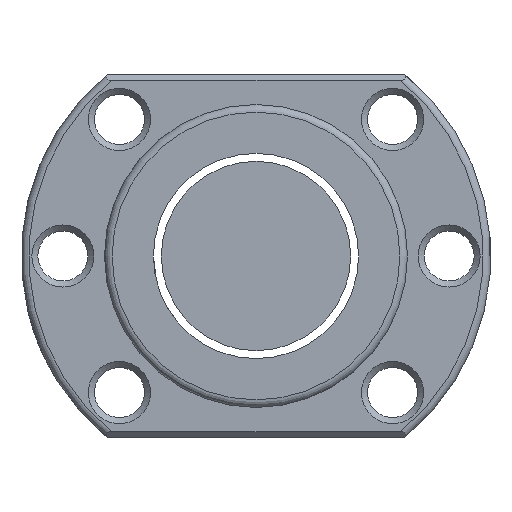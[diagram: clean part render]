
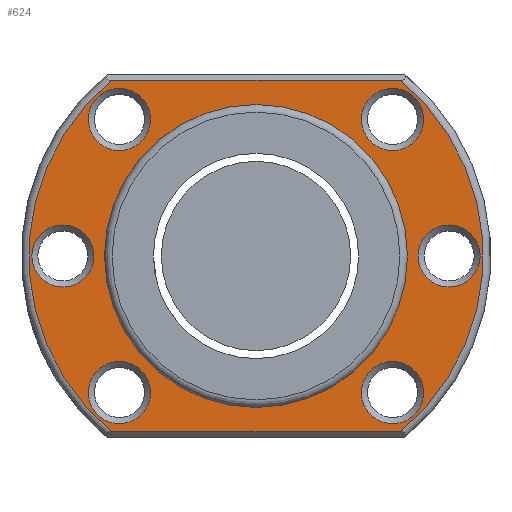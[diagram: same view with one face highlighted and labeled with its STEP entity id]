
A CAD part, left-side view. The second image highlights one B-rep face of the part: STEP entity #624.
In plain terms, the highlighted planar face has unit normal (-1, 0, 0).
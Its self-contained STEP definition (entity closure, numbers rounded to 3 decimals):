
#39 = CIRCLE ( 'NONE', #355, 30. ) ;
#51 = CIRCLE ( 'NONE', #1355, 30. ) ;
#83 = CARTESIAN_POINT ( 'NONE',  ( -53., -25.5, 4.1 ) ) ;
#86 = EDGE_CURVE ( 'NONE', #1493, #1812, #39, .T. ) ;
#105 = VECTOR ( 'NONE', #765, 1000. ) ;
#205 = LINE ( 'NONE', #1200, #1205 ) ;
#257 = AXIS2_PLACEMENT_3D ( 'NONE', #300, #1300, #2285 ) ;
#271 = CARTESIAN_POINT ( 'NONE',  ( -53., 18.031, 18.031 ) ) ;
#300 = CARTESIAN_POINT ( 'NONE',  ( -53., -18.031, -18.031 ) ) ;
#318 = DIRECTION ( 'NONE',  ( 1., 0., 0. ) ) ;
#355 = AXIS2_PLACEMENT_3D ( 'NONE', #2313, #833, #2089 ) ;
#358 = FACE_BOUND ( 'NONE', #1873, .T. ) ;
#390 = FACE_BOUND ( 'NONE', #1109, .T. ) ;
#509 = AXIS2_PLACEMENT_3D ( 'NONE', #2655, #835, #1083 ) ;
#539 = DIRECTION ( 'NONE',  ( -1., 0., 0. ) ) ;
#544 = DIRECTION ( 'NONE',  ( 0., 0., 1. ) ) ;
#563 = AXIS2_PLACEMENT_3D ( 'NONE', #661, #1650, #646 ) ;
#568 = CARTESIAN_POINT ( 'NONE',  ( -53., 18.031, 22.131 ) ) ;
#574 = CARTESIAN_POINT ( 'NONE',  ( -53., 0., 0. ) ) ;
#624 = ADVANCED_FACE ( 'NONE', ( #1637, #1620, #390, #1891, #2595, #3122, #358, #2343 ), #1373, .T. ) ;
#646 = DIRECTION ( 'NONE',  ( 0., 0., 1. ) ) ;
#661 = CARTESIAN_POINT ( 'NONE',  ( -53., 31., 0. ) ) ;
#729 = EDGE_LOOP ( 'NONE', ( #1517 ) ) ;
#765 = DIRECTION ( 'NONE',  ( 0., 1., 0. ) ) ;
#773 = CIRCLE ( 'NONE', #1668, 4.1 ) ;
#795 = VERTEX_POINT ( 'NONE', #1340 ) ;
#797 = EDGE_LOOP ( 'NONE', ( #1303 ) ) ;
#798 = EDGE_CURVE ( 'NONE', #795, #795, #1090, .T. ) ;
#805 = CARTESIAN_POINT ( 'NONE',  ( -53., 19.02, -23.2 ) ) ;
#806 = DIRECTION ( 'NONE',  ( 1., 0., 0. ) ) ;
#814 = VERTEX_POINT ( 'NONE', #2045 ) ;
#824 = CIRCLE ( 'NONE', #509, 4.1 ) ;
#833 = DIRECTION ( 'NONE',  ( -1., 0., 0. ) ) ;
#835 = DIRECTION ( 'NONE',  ( 1., 0., 0. ) ) ;
#871 = DIRECTION ( 'NONE',  ( 0., 0., 1. ) ) ;
#905 = DIRECTION ( 'NONE',  ( 0., 0., 1. ) ) ;
#989 = AXIS2_PLACEMENT_3D ( 'NONE', #271, #2490, #1071 ) ;
#1027 = EDGE_LOOP ( 'NONE', ( #1826, #2982, #1537, #1801 ) ) ;
#1033 = AXIS2_PLACEMENT_3D ( 'NONE', #2780, #318, #1318 ) ;
#1038 = EDGE_CURVE ( 'NONE', #1793, #1793, #824, .T. ) ;
#1054 = VERTEX_POINT ( 'NONE', #2811 ) ;
#1062 = CARTESIAN_POINT ( 'NONE',  ( -53., 18.031, -13.931 ) ) ;
#1071 = DIRECTION ( 'NONE',  ( 0., 0., 1. ) ) ;
#1083 = DIRECTION ( 'NONE',  ( 0., 0., 1. ) ) ;
#1090 = CIRCLE ( 'NONE', #1404, 4.1 ) ;
#1109 = EDGE_LOOP ( 'NONE', ( #2928 ) ) ;
#1200 = CARTESIAN_POINT ( 'NONE',  ( -53., 31., -23.2 ) ) ;
#1205 = VECTOR ( 'NONE', #1689, 1000. ) ;
#1230 = LINE ( 'NONE', #1515, #105 ) ;
#1242 = EDGE_CURVE ( 'NONE', #2751, #2751, #2125, .T. ) ;
#1253 = CARTESIAN_POINT ( 'NONE',  ( -53., -18.031, 18.031 ) ) ;
#1300 = DIRECTION ( 'NONE',  ( 1., 0., 0. ) ) ;
#1303 = ORIENTED_EDGE ( 'NONE', *, *, #1957, .T. ) ;
#1309 = CARTESIAN_POINT ( 'NONE',  ( -53., -18.031, -13.931 ) ) ;
#1318 = DIRECTION ( 'NONE',  ( 0., 0., -1. ) ) ;
#1325 = CARTESIAN_POINT ( 'NONE',  ( -53., 0., -20. ) ) ;
#1340 = CARTESIAN_POINT ( 'NONE',  ( -53., -18.031, 22.131 ) ) ;
#1355 = AXIS2_PLACEMENT_3D ( 'NONE', #574, #539, #2516 ) ;
#1373 = PLANE ( 'NONE',  #563 ) ;
#1404 = AXIS2_PLACEMENT_3D ( 'NONE', #1253, #806, #544 ) ;
#1493 = VERTEX_POINT ( 'NONE', #2963 ) ;
#1515 = CARTESIAN_POINT ( 'NONE',  ( -53., 31., 23.2 ) ) ;
#1517 = ORIENTED_EDGE ( 'NONE', *, *, #1242, .T. ) ;
#1537 = ORIENTED_EDGE ( 'NONE', *, *, #2661, .T. ) ;
#1546 = VERTEX_POINT ( 'NONE', #1309 ) ;
#1557 = CIRCLE ( 'NONE', #257, 4.1 ) ;
#1567 = VERTEX_POINT ( 'NONE', #83 ) ;
#1611 = ORIENTED_EDGE ( 'NONE', *, *, #2054, .T. ) ;
#1620 = FACE_BOUND ( 'NONE', #1916, .T. ) ;
#1637 = FACE_BOUND ( 'NONE', #797, .T. ) ;
#1645 = CARTESIAN_POINT ( 'NONE',  ( -53., 18.031, -18.031 ) ) ;
#1650 = DIRECTION ( 'NONE',  ( -1., 0., 0. ) ) ;
#1668 = AXIS2_PLACEMENT_3D ( 'NONE', #2062, #1947, #905 ) ;
#1689 = DIRECTION ( 'NONE',  ( 0., -1., 0. ) ) ;
#1769 = EDGE_LOOP ( 'NONE', ( #1611 ) ) ;
#1793 = VERTEX_POINT ( 'NONE', #2997 ) ;
#1801 = ORIENTED_EDGE ( 'NONE', *, *, #3153, .T. ) ;
#1812 = VERTEX_POINT ( 'NONE', #805 ) ;
#1826 = ORIENTED_EDGE ( 'NONE', *, *, #86, .T. ) ;
#1873 = EDGE_LOOP ( 'NONE', ( #2175 ) ) ;
#1891 = FACE_BOUND ( 'NONE', #1769, .T. ) ;
#1916 = EDGE_LOOP ( 'NONE', ( #2519 ) ) ;
#1930 = DIRECTION ( 'NONE',  ( 1., 0., 0. ) ) ;
#1947 = DIRECTION ( 'NONE',  ( 1., 0., 0. ) ) ;
#1957 = EDGE_CURVE ( 'NONE', #1546, #1546, #1557, .T. ) ;
#1959 = EDGE_CURVE ( 'NONE', #2294, #2294, #3051, .T. ) ;
#2045 = CARTESIAN_POINT ( 'NONE',  ( -53., -19.02, 23.2 ) ) ;
#2054 = EDGE_CURVE ( 'NONE', #2069, #2069, #2180, .T. ) ;
#2062 = CARTESIAN_POINT ( 'NONE',  ( -53., -25.5, 0. ) ) ;
#2069 = VERTEX_POINT ( 'NONE', #568 ) ;
#2089 = DIRECTION ( 'NONE',  ( 0., 0., 1. ) ) ;
#2098 = EDGE_CURVE ( 'NONE', #1567, #1567, #773, .T. ) ;
#2125 = CIRCLE ( 'NONE', #2944, 4.1 ) ;
#2175 = ORIENTED_EDGE ( 'NONE', *, *, #1959, .T. ) ;
#2180 = CIRCLE ( 'NONE', #989, 4.1 ) ;
#2285 = DIRECTION ( 'NONE',  ( 0., 0., 1. ) ) ;
#2294 = VERTEX_POINT ( 'NONE', #1325 ) ;
#2313 = CARTESIAN_POINT ( 'NONE',  ( -53., 0., 0. ) ) ;
#2343 = FACE_OUTER_BOUND ( 'NONE', #1027, .T. ) ;
#2490 = DIRECTION ( 'NONE',  ( 1., 0., 0. ) ) ;
#2516 = DIRECTION ( 'NONE',  ( 0., 0., 1. ) ) ;
#2519 = ORIENTED_EDGE ( 'NONE', *, *, #2098, .T. ) ;
#2595 = FACE_BOUND ( 'NONE', #2972, .T. ) ;
#2655 = CARTESIAN_POINT ( 'NONE',  ( -53., 25.5, 0. ) ) ;
#2661 = EDGE_CURVE ( 'NONE', #1054, #814, #51, .T. ) ;
#2684 = EDGE_CURVE ( 'NONE', #1812, #1054, #205, .T. ) ;
#2751 = VERTEX_POINT ( 'NONE', #1062 ) ;
#2780 = CARTESIAN_POINT ( 'NONE',  ( -53., 0., 0. ) ) ;
#2811 = CARTESIAN_POINT ( 'NONE',  ( -53., -19.02, -23.2 ) ) ;
#2818 = ORIENTED_EDGE ( 'NONE', *, *, #1038, .T. ) ;
#2928 = ORIENTED_EDGE ( 'NONE', *, *, #798, .T. ) ;
#2944 = AXIS2_PLACEMENT_3D ( 'NONE', #1645, #1930, #871 ) ;
#2963 = CARTESIAN_POINT ( 'NONE',  ( -53., 19.02, 23.2 ) ) ;
#2972 = EDGE_LOOP ( 'NONE', ( #2818 ) ) ;
#2982 = ORIENTED_EDGE ( 'NONE', *, *, #2684, .T. ) ;
#2997 = CARTESIAN_POINT ( 'NONE',  ( -53., 25.5, 4.1 ) ) ;
#3051 = CIRCLE ( 'NONE', #1033, 20. ) ;
#3122 = FACE_BOUND ( 'NONE', #729, .T. ) ;
#3153 = EDGE_CURVE ( 'NONE', #814, #1493, #1230, .T. ) ;
